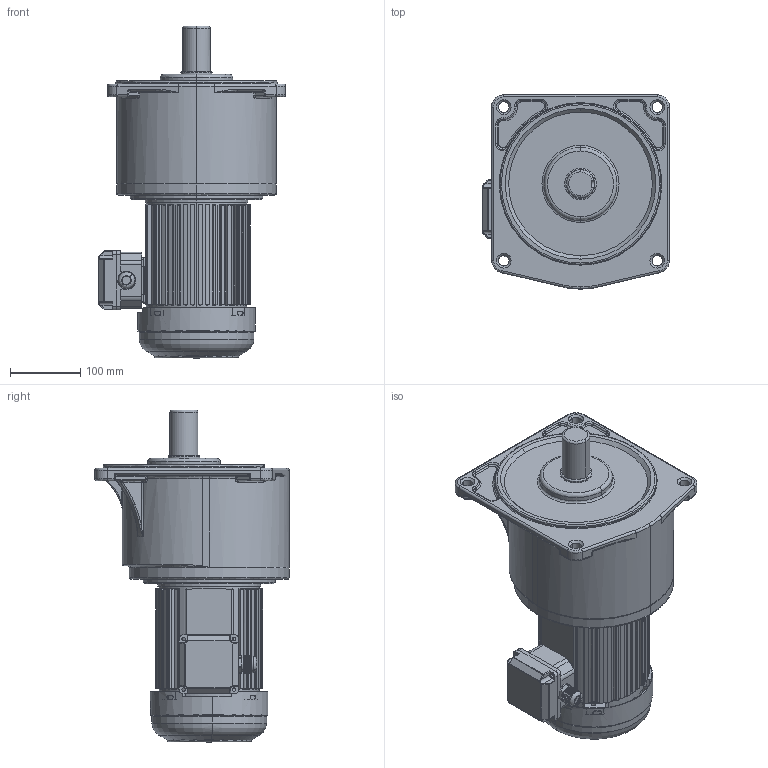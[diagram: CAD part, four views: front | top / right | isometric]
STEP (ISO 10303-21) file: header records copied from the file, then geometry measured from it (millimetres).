
FILE_DESCRIPTION (( 'STEP AP203' ), '1' );
FILE_NAME ('750W饜5#湍价陬蕾宒.STEP', '2020-04-17T07:51:31', ( '' ), ( '' ), 'SwSTEP 2.0', 'SolidWorks 2019', '' );
FILE_SCHEMA (( 'CONFIG_CONTROL_DESIGN' ));
Length unit declared in the file: millimetre
Products named in the file (5): 750W棠憤迖殤; 湍价陬諉盄碟裔; 750W饜5#湍价陬蕾宒; 750W饜5#蕾宒; 750W价陬瑞欶
Assembly tree (4 placements, depth 2):
  750W饜5#湍价陬蕾宒
    750W饜5#蕾宒
    750W棠憤迖殤
    750W价陬瑞欶
    湍价陬諉盄碟裔
Bounding box: 267.1 x 277.1 x 474 mm (x, y, z)
Volume: 341621.7 mm3; surface area: 1089315.2 mm2
Topology: 3 solids, 25 shells, 2670 faces, 7061 edges, 4367 vertices
Faces by surface type: plane 1028, cylinder 932, bspline 656, torus 30, cone 12, sphere 12
Entity records: 111243 total; most frequent: CARTESIAN_POINT 49457, ORIENTED_EDGE 13822, DIRECTION 11363, EDGE_CURVE 6913, VERTEX_POINT 4367, AXIS2_PLACEMENT_3D 4066, VECTOR 3231, LINE 3231
